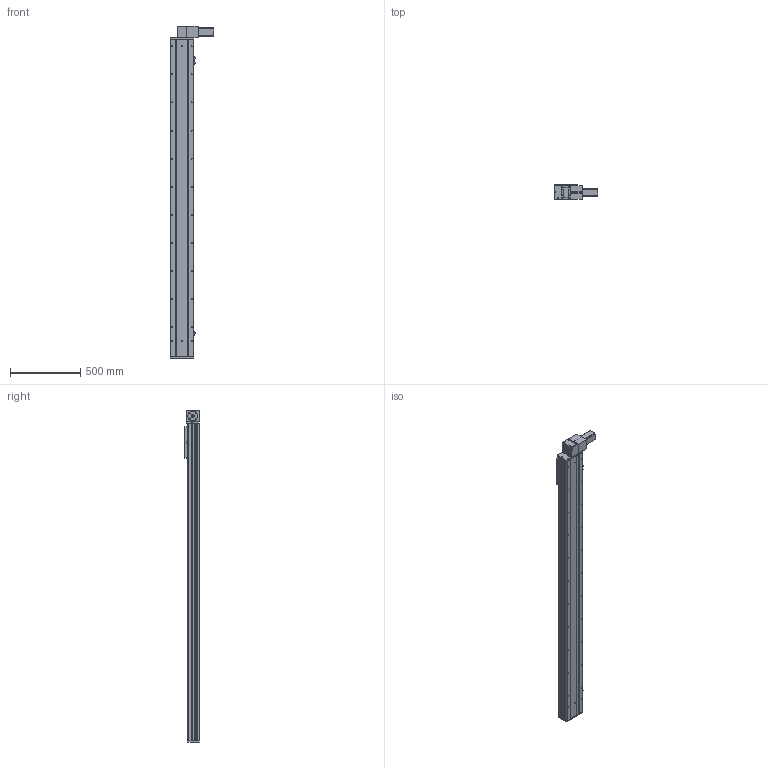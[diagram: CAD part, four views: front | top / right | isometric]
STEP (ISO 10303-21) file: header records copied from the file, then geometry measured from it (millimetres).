
FILE_DESCRIPTION (( 'STEP AP203' ), '1' );
FILE_NAME ('Y170CB-D105-S1950-BD-P400W.STEP', '2020-02-20T08:58:00', ( '微软用户' ), ( '微软中国' ), 'SwSTEP 2.0', 'SolidWorks 2017', '' );
FILE_SCHEMA (( 'CONFIG_CONTROL_DESIGN' ));
Length unit declared in the file: millimetre
Products named in the file (16): 70C-雄赽釱-奻-; 0C--雄赽釱俋欶-170; B-源倛裔啣; 70CB-詩湍--; san松下电机400不带刹车----; Y100-135俋离換覜ん--; 70CB-掛极-; Y170CB-陔俋离換覜結え---; --70CB --喘謫眊楊擘啣-; Y1埴倛裔; 70CB-耜裔啣-; 70B喘謫眊----; 70C--詩湍揤踡え-; 0B薊粣ん眊-400W--; 70CB--耜裔; Y170CB-D105-S1950-BD-P400W
Assembly tree (19 placements, depth 2):
  Y170CB-D105-S1950-BD-P400W
    B-源倛裔啣
    san松下电机400不带刹车----
    70CB-掛极-
    --70CB --喘謫眊楊擘啣-
    70CB-耜裔啣-  x2
    70C--詩湍揤踡え-  x2
    70CB--耜裔
    70C-雄赽釱-奻-
    0C--雄赽釱俋欶-170
    70CB-詩湍--
    Y100-135俋离換覜ん--  x3
    Y170CB-陔俋离換覜結え---
    Y1埴倛裔
    70B喘謫眊----
    0B薊粣ん眊-400W--
Bounding box: 313.5 x 107 x 2366 mm (x, y, z)
Volume: 10567028.9 mm3; surface area: 3677899.8 mm2
Topology: 19 solids, 19 shells, 960 faces, 2546 edges, 1688 vertices
Faces by surface type: cylinder 514, plane 422, cone 24
Entity records: 30179 total; most frequent: CARTESIAN_POINT 5626, DIRECTION 4911, ORIENTED_EDGE 4574, EDGE_CURVE 2287, AXIS2_PLACEMENT_3D 1821, VERTEX_POINT 1518, LINE 1269, VECTOR 1269
